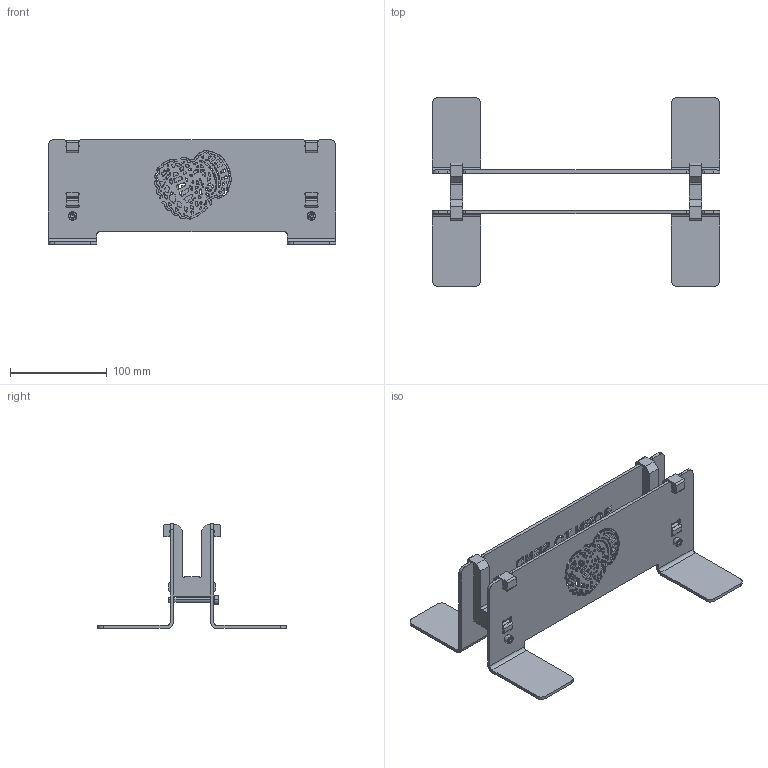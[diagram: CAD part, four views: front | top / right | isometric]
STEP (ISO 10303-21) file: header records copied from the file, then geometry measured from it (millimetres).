
FILE_DESCRIPTION(('HOOPS Exchange Step'),'2;1');
FILE_NAME('/home/e/Projects/CAD/SCS_XX/laptopStand_26/release/_assembly_laptopStandSingle-A-00/_assembly_laptopStandSingle-A-00.step','2026-10-14T12:43:05-07:00',('e'),('Unknown organisation'),'HOOPS Exchange 2025.8','HOOPS Exchange','Unknown authorisation');
FILE_SCHEMA( ('AP203_CONFIGURATION_CONTROLLED_3D_DESIGN_OF_MECHANICAL_PARTS_AND_ASSEMBLIES_MIM_LF') );
Length unit declared in the file: millimetre
Products named in the file (3): 0; root
Assembly tree (2 placements, depth 2):
  root
    0
    0
Bounding box: 296.66 x 195.05 x 108.18 mm (x, y, z)
Volume: 276008.4 mm3; surface area: 176941.7 mm2
Topology: 6 solids, 6 shells, 8669 faces, 25945 edges, 17288 vertices
Faces by surface type: plane 7983, cylinder 666, cone 12, torus 8
Full cylindrical faces by diameter (mm): 5.25 x4
Entity records: 287921 total; most frequent: CARTESIAN_POINT 52477, ORIENTED_EDGE 51882, DIRECTION 44629, EDGE_CURVE 25941, VECTOR 24549, LINE 24549, VERTEX_POINT 17288, AXIS2_PLACEMENT_3D 10040
